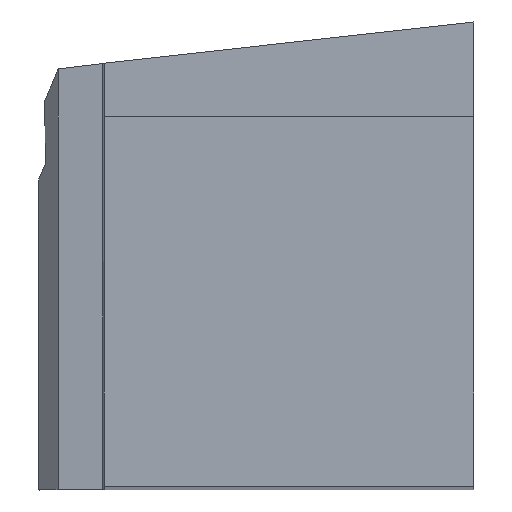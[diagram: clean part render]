
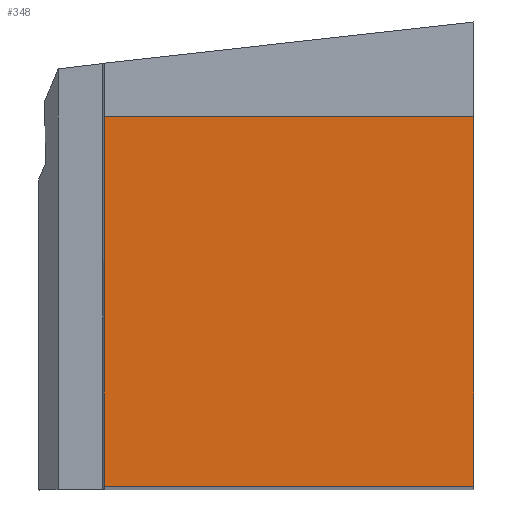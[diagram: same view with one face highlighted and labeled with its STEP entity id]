
A CAD part, top view. The second image highlights one B-rep face of the part: STEP entity #348.
In plain terms, the highlighted planar face has unit normal (0, 0, 1).
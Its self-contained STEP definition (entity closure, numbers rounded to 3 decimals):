
#204=VERTEX_POINT('',#515);
#232=EDGE_CURVE('',#240,#362,#545,.T.);
#240=VERTEX_POINT('',#554);
#254=EDGE_CURVE('',#362,#382,#569,.T.);
#320=EDGE_CURVE('',#204,#240,#643,.T.);
#348=ADVANCED_FACE('',(#673),#674,.F.);
#362=VERTEX_POINT('',#689);
#382=VERTEX_POINT('',#711);
#446=EDGE_CURVE('',#382,#204,#780,.T.);
#515=CARTESIAN_POINT('',(-25.0,0.,0.0));
#545=LINE('',#903,#904);
#554=CARTESIAN_POINT('',(-25.0,25.0,0.0));
#569=LINE('',#935,#936);
#643=LINE('',#1035,#1036);
#673=FACE_OUTER_BOUND('',#1076,.T.);
#674=PLANE('',#1077);
#689=CARTESIAN_POINT('',(0.0,25.0,0.0));
#711=CARTESIAN_POINT('',(0.0,0.,0.0));
#780=LINE('',#1225,#1226);
#903=CARTESIAN_POINT('',(-25.0,25.0,0.0));
#904=VECTOR('',#1320,1.0);
#935=CARTESIAN_POINT('',(0.0,25.0,0.0));
#936=VECTOR('',#1341,1.0);
#1035=CARTESIAN_POINT('',(-25.0,0.,0.0));
#1036=VECTOR('',#1438,1.0);
#1076=EDGE_LOOP('',(#1461,#1462,#1463,#1464));
#1077=AXIS2_PLACEMENT_3D('',#1465,#1466,#1467);
#1225=CARTESIAN_POINT('',(0.0,0.,0.0));
#1226=VECTOR('',#1581,1.0);
#1320=DIRECTION('',(1.0,0.0,0.0));
#1341=DIRECTION('',(0.0,-1.0,0.0));
#1438=DIRECTION('',(0.0,1.0,0.0));
#1461=ORIENTED_EDGE('',*,*,#232,.F.);
#1462=ORIENTED_EDGE('',*,*,#320,.F.);
#1463=ORIENTED_EDGE('',*,*,#446,.F.);
#1464=ORIENTED_EDGE('',*,*,#254,.F.);
#1465=CARTESIAN_POINT('',(-12.5,12.5,0.0));
#1466=DIRECTION('',(0.0,0.0,-1.0));
#1467=DIRECTION('',(-1.0,0.0,0.0));
#1581=DIRECTION('',(-1.0,0.0,0.0));
